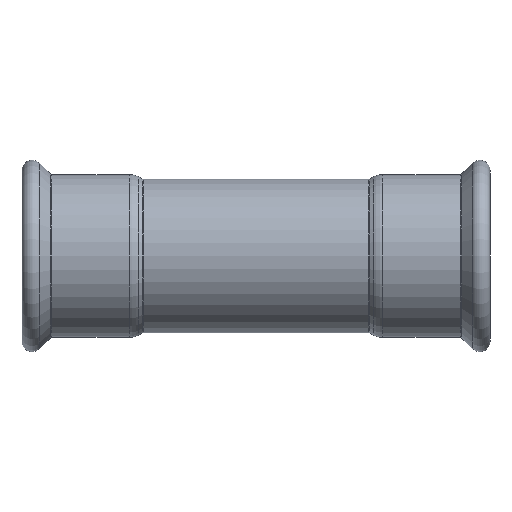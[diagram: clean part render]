
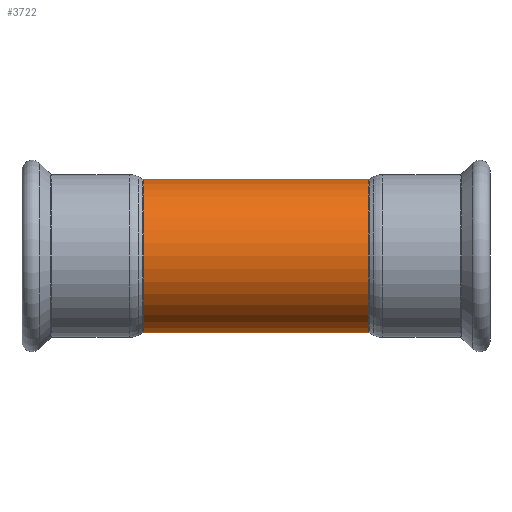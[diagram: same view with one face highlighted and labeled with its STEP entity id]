
A CAD part, front view. The second image highlights one B-rep face of the part: STEP entity #3722.
In plain terms, the highlighted cylindrical face has radius 37.55 mm (diameter 75.1 mm), a partial arc.
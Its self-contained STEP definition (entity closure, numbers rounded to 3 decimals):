
#131 = AXIS2_PLACEMENT_3D ( 'NONE', #4100, #1725, #4112 ) ;
#281 = EDGE_CURVE ( 'NONE', #1231, #1540, #2633, .T. ) ;
#572 = CARTESIAN_POINT ( 'NONE',  ( 55.056, 0., -37.55 ) ) ;
#676 = CARTESIAN_POINT ( 'NONE',  ( -55.056, 0., -37.55 ) ) ;
#701 = DIRECTION ( 'NONE',  ( -1., 0., 0. ) ) ;
#804 = CIRCLE ( 'NONE', #131, 37.55 ) ;
#1111 = LINE ( 'NONE', #4000, #3985 ) ;
#1118 = LINE ( 'NONE', #3219, #1835 ) ;
#1231 = VERTEX_POINT ( 'NONE', #572 ) ;
#1381 = ORIENTED_EDGE ( 'NONE', *, *, #3989, .F. ) ;
#1518 = EDGE_LOOP ( 'NONE', ( #3335, #3236, #3000, #1381 ) ) ;
#1540 = VERTEX_POINT ( 'NONE', #2305 ) ;
#1549 = DIRECTION ( 'NONE',  ( 0., 0., 1. ) ) ;
#1725 = DIRECTION ( 'NONE',  ( -1., 0., 0. ) ) ;
#1772 = AXIS2_PLACEMENT_3D ( 'NONE', #3509, #3521, #1549 ) ;
#1835 = VECTOR ( 'NONE', #2856, 1000. ) ;
#2298 = VERTEX_POINT ( 'NONE', #2316 ) ;
#2305 = CARTESIAN_POINT ( 'NONE',  ( 55.056, 0., 37.55 ) ) ;
#2316 = CARTESIAN_POINT ( 'NONE',  ( -55.056, 0., 37.55 ) ) ;
#2497 = EDGE_CURVE ( 'NONE', #1231, #3489, #1111, .T. ) ;
#2590 = CARTESIAN_POINT ( 'NONE',  ( 27.146, 0., 0. ) ) ;
#2633 = CIRCLE ( 'NONE', #1772, 37.55 ) ;
#2856 = DIRECTION ( 'NONE',  ( -1., 0., 0. ) ) ;
#2871 = DIRECTION ( 'NONE',  ( -1., 0., 0. ) ) ;
#2891 = FACE_OUTER_BOUND ( 'NONE', #1518, .T. ) ;
#2943 = CYLINDRICAL_SURFACE ( 'NONE', #4058, 37.55 ) ;
#3000 = ORIENTED_EDGE ( 'NONE', *, *, #4282, .T. ) ;
#3219 = CARTESIAN_POINT ( 'NONE',  ( 27.146, 0., 37.55 ) ) ;
#3234 = DIRECTION ( 'NONE',  ( 0., 0., 1. ) ) ;
#3236 = ORIENTED_EDGE ( 'NONE', *, *, #281, .T. ) ;
#3335 = ORIENTED_EDGE ( 'NONE', *, *, #2497, .F. ) ;
#3489 = VERTEX_POINT ( 'NONE', #676 ) ;
#3509 = CARTESIAN_POINT ( 'NONE',  ( 55.056, 0., 0. ) ) ;
#3521 = DIRECTION ( 'NONE',  ( -1., 0., 0. ) ) ;
#3722 = ADVANCED_FACE ( 'NONE', ( #2891 ), #2943, .T. ) ;
#3985 = VECTOR ( 'NONE', #701, 1000. ) ;
#3989 = EDGE_CURVE ( 'NONE', #3489, #2298, #804, .T. ) ;
#4000 = CARTESIAN_POINT ( 'NONE',  ( 27.146, 0., -37.55 ) ) ;
#4058 = AXIS2_PLACEMENT_3D ( 'NONE', #2590, #2871, #3234 ) ;
#4100 = CARTESIAN_POINT ( 'NONE',  ( -55.056, 0., 0. ) ) ;
#4112 = DIRECTION ( 'NONE',  ( 0., 0., 1. ) ) ;
#4282 = EDGE_CURVE ( 'NONE', #1540, #2298, #1118, .T. ) ;
